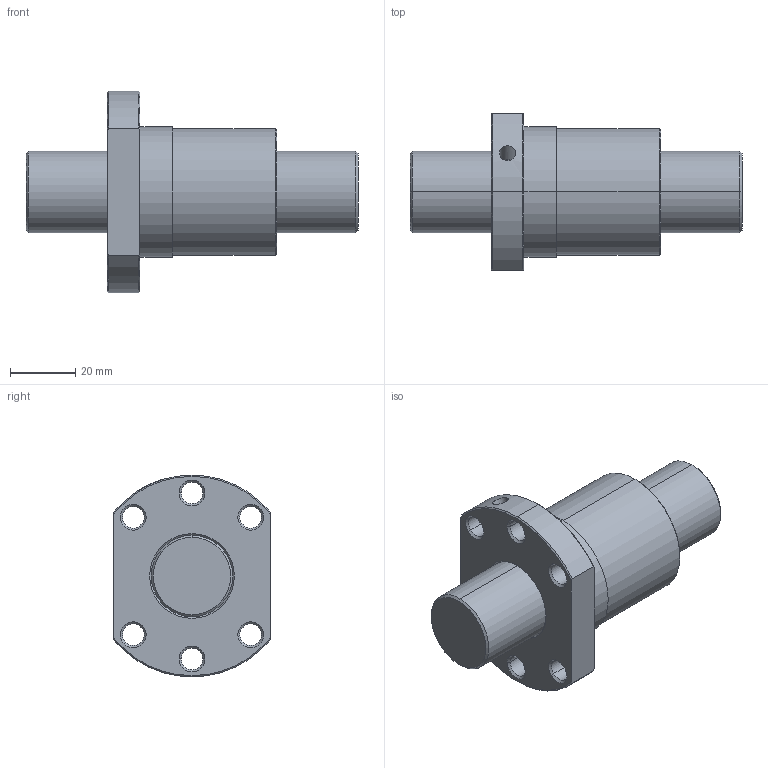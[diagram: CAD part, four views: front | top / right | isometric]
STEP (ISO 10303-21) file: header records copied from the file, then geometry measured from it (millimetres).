
FILE_DESCRIPTION(('no description'),'unknown implementation level');
FILE_NAME('R25_05T4_DEB_102_102_0_023_26.stp',' ',('HIWIN GmbH'),('CADClick - KiM GmbH - www.kimweb.de'),'unknown preprocess','ACIS','unknown authorization');
FILE_SCHEMA(('CONFIG_CONTROL_DESIGN'));
Length unit declared in the file: millimetre
Products named in the file (2): 1; 2
Bounding box: 102 x 48 x 62 mm (x, y, z)
Volume: 99362.9 mm3; surface area: 25178 mm2
Topology: 2 solids, 2 shells, 78 faces, 176 edges, 103 vertices
Faces by surface type: cone 44, cylinder 26, plane 8
Entity records: 2329 total; most frequent: CARTESIAN_POINT 440, DIRECTION 416, ORIENTED_EDGE 348, EDGE_CURVE 174, AXIS2_PLACEMENT_3D 172, VERTEX_POINT 103, EDGE_LOOP 95, CIRCLE 92
